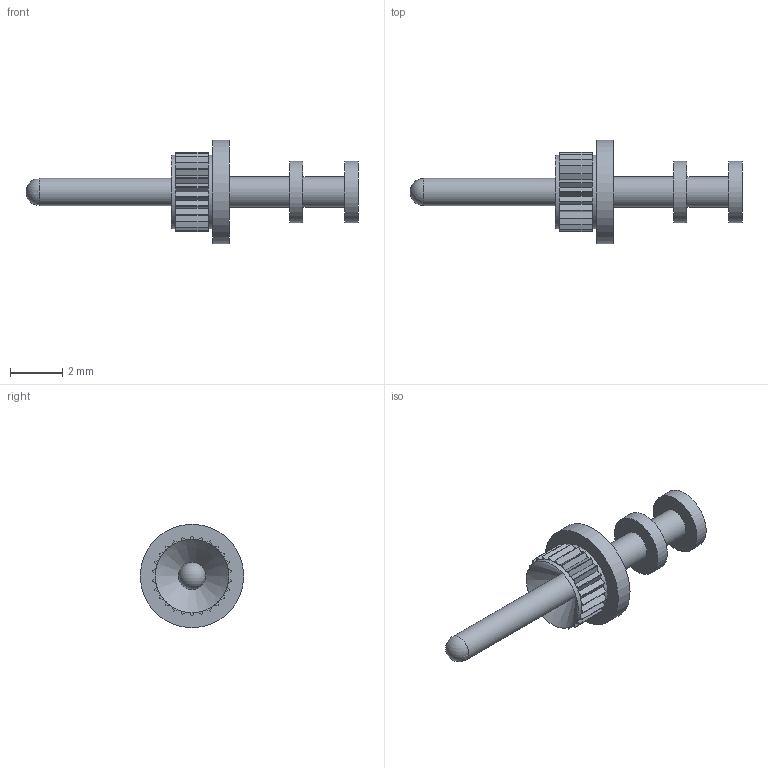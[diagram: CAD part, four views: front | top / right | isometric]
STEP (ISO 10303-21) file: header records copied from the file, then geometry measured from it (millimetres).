
FILE_DESCRIPTION(/* description */ (''),/* implementation_level */ '2;1');
FILE_NAME(/* name */ 'Z:\STEP folder\120-2081-01.ipt.stp',/* time_stamp */ '2016-12-07T10:27:31+00:00',/* author */ ('Paul Karlsons'),/* organization */ (''),/* preprocessor_version */ 'ST-DEVELOPER v15.2',/* originating_system */ 'Autodesk Inventor 2014',/* authorisation */ '');
FILE_SCHEMA (('AUTOMOTIVE_DESIGN { 1 0 10303 214 3 1 1 }'));
Length unit declared in the file: millimetre
Products named in the file (1): 120-2081-01
Bounding box: 12.72 x 3.96 x 3.96 mm (x, y, z)
Volume: 29.3 mm3; surface area: 110.7 mm2
Topology: 1 solids, 1 shells, 198 faces, 471 edges, 278 vertices
Faces by surface type: plane 162, cylinder 34, sphere 1, cone 1
Full cylindrical faces by diameter (mm): 1.041 x1, 1.168 x2, 2.362 x2, 2.819 x2, 3.96 x1
Entity records: 5551 total; most frequent: DIRECTION 1024, CARTESIAN_POINT 929, ORIENTED_EDGE 912, EDGE_CURVE 456, AXIS2_PLACEMENT_3D 369, LINE 286, VECTOR 286, VERTEX_POINT 274
